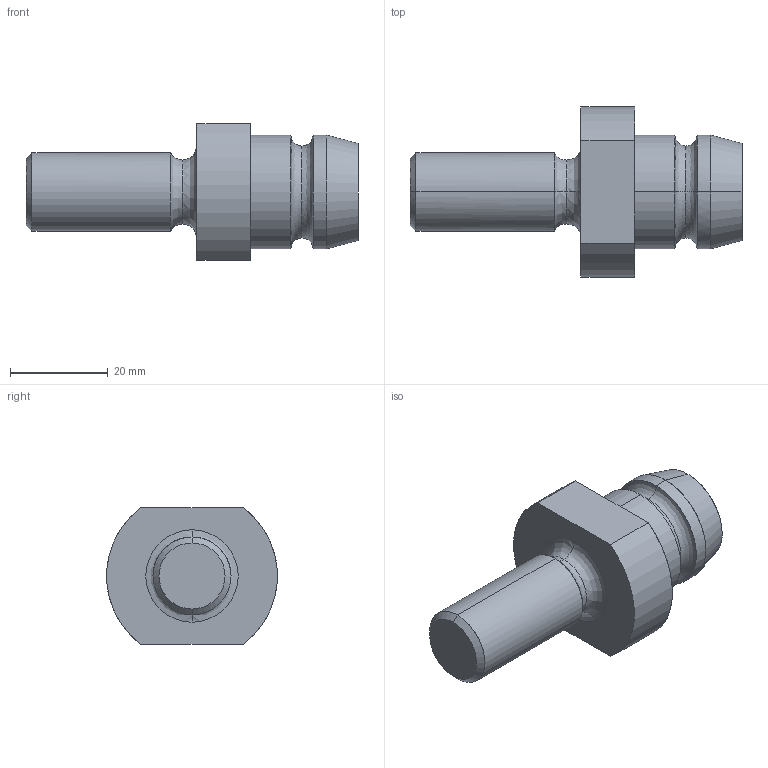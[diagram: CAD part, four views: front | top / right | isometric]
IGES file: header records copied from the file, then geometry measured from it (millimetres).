
Start section: START RECORD GO HERE.
Global section: file name: AGS3411M16.igs; native system: DASSAULT SYSTEMES CATIA V5 R20 - www.3ds.com; preprocessor: CATIA Version 5 Release 20 ; author: Utente; organization: NB04-ASUS; date: 20210221.203410; units: millimetre
Bounding box: 68 x 34.99 x 28 mm (x, y, z)
Surface area: 6222.1 mm2 (no closed solid volume)
Topology: 0 solids, 0 shells, 26 faces, 140 edges, 140 vertices
Faces by surface type: revolution 20, plane 6
